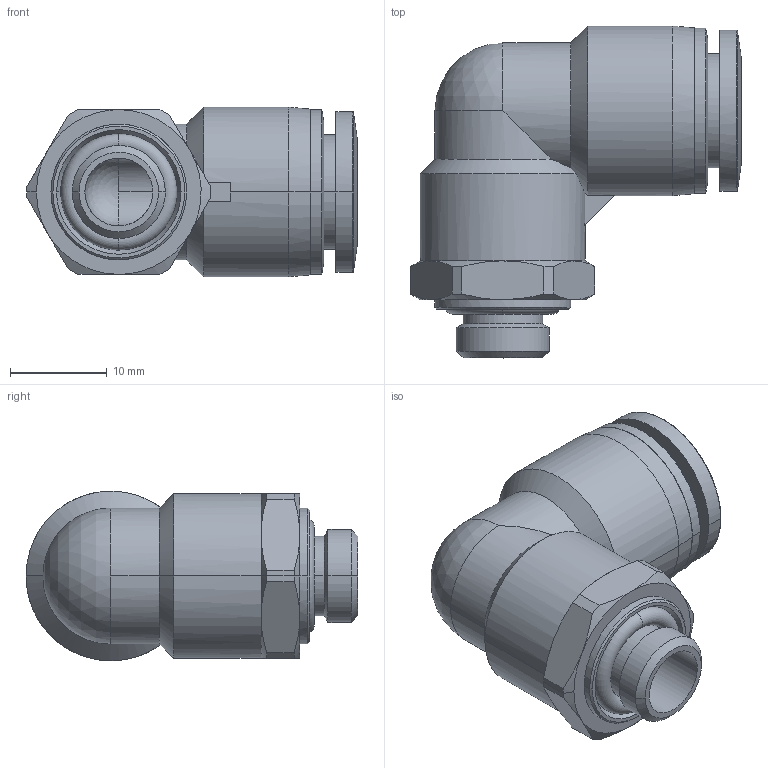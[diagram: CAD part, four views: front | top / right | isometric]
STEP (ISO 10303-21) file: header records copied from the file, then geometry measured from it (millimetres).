
FILE_DESCRIPTION (( 'STEP AP203' ), '1' );
FILE_NAME ('FL10-01.STEP', '2020-05-06T15:02:51', ( '' ), ( '' ), 'SwSTEP 2.0', 'SolidWorks 2019', '' );
FILE_SCHEMA (( 'CONFIG_CONTROL_DESIGN' ));
Length unit declared in the file: millimetre
Products named in the file (1): FL10-01
Bounding box: 34.1 x 34.25 x 17.5 mm (x, y, z)
Surface area: 4573.6 mm2 (no closed solid volume)
Topology: 0 solids, 4 shells, 96 faces, 232 edges, 144 vertices
Faces by surface type: cylinder 35, cone 32, plane 19, torus 6, bspline 2, sphere 2
Entity records: 4601 total; most frequent: CARTESIAN_POINT 2680, ORIENTED_EDGE 444, DIRECTION 247, EDGE_CURVE 230, B_SPLINE_CURVE_WITH_KNOTS 173, VERTEX_POINT 144, EDGE_LOOP 106, AXIS2_PLACEMENT_3D 101
